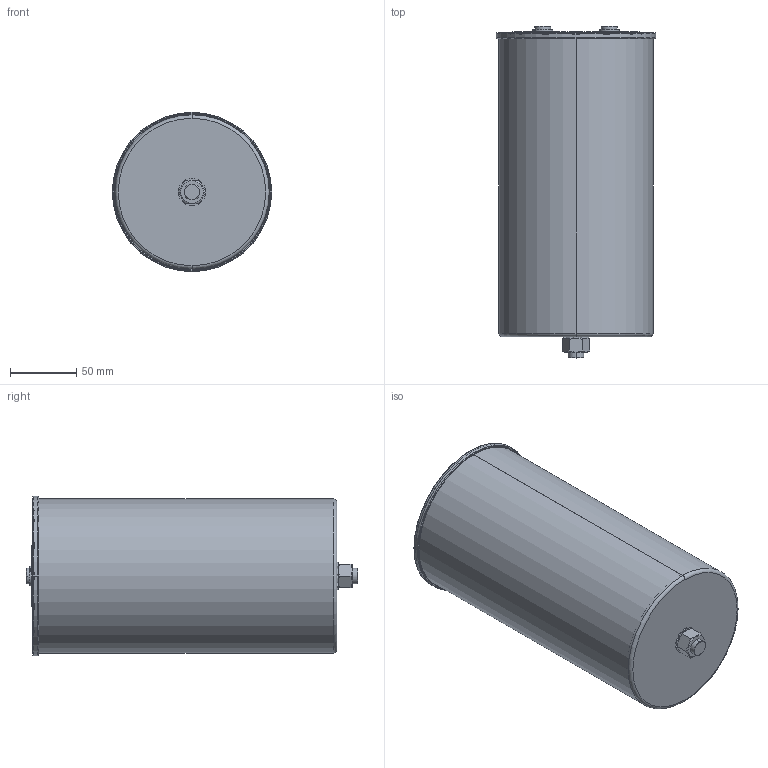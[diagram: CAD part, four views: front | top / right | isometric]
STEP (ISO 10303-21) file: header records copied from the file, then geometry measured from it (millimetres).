
FILE_DESCRIPTION (( 'STEP AP203' ), '1' );
FILE_NAME ('B25680Bx_116x229_234.STEP', '2021-09-13T06:58:41', ( '' ), ( '' ), 'SwSTEP 2.0', 'SolidWorks 2017', '' );
FILE_SCHEMA (( 'CONFIG_CONTROL_DESIGN' ));
Length unit declared in the file: millimetre
Products named in the file (1): B25680Bx_116x229_234
Bounding box: 120 x 250 x 120 mm (x, y, z)
Volume: 146406.8 mm3; surface area: 237257 mm2
Topology: 1 solids, 7 shells, 385 faces, 908 edges, 572 vertices
Faces by surface type: plane 153, cylinder 142, torus 42, cone 36, bspline 12
Entity records: 12405 total; most frequent: CARTESIAN_POINT 3162, DIRECTION 2092, ORIENTED_EDGE 1808, EDGE_CURVE 904, AXIS2_PLACEMENT_3D 850, VERTEX_POINT 572, CIRCLE 476, EDGE_LOOP 436
